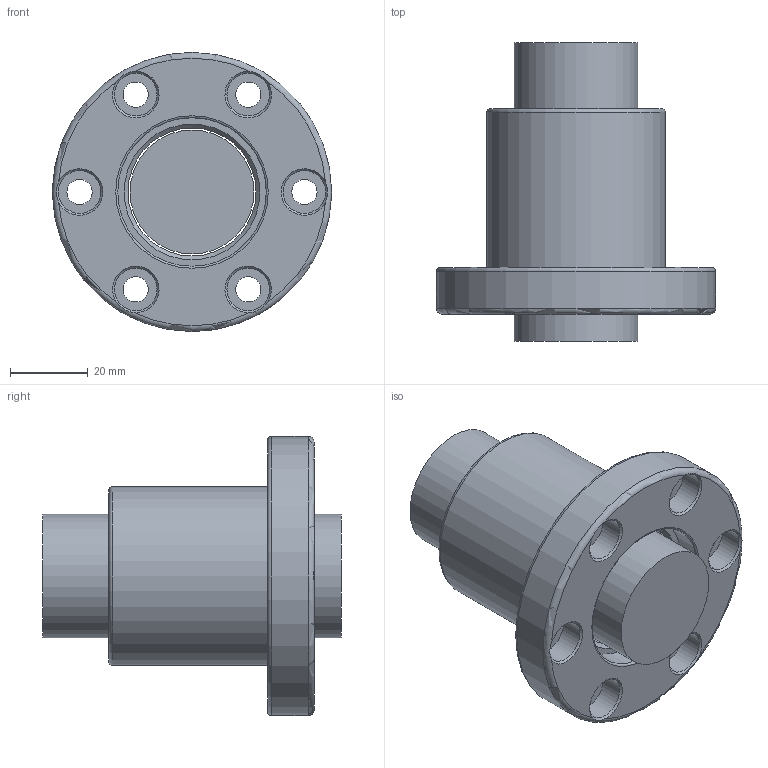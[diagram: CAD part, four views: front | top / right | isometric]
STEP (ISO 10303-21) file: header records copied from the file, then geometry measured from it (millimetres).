
FILE_DESCRIPTION(/* description */ (''),/* implementation_level */ '2;1');
FILE_NAME(/* name */ '3205T4N.prt.step',/* time_stamp */ '2008-12-05T09:34:34+08:00',/* author */ (''),/* organization */ (''),/* preprocessor_version */ 'ST-DEVELOPER v11',/* originating_system */ 'SIEMENS UGS NX 6.0',/* authorisation */ '');
FILE_SCHEMA (('AUTOMOTIVE_DESIGN { 1 0 10303 214 1 1 1 1 }'));
Length unit declared in the file: millimetre
Products named in the file (1): 3205T4N
Bounding box: 72 x 77 x 72 mm (x, y, z)
Volume: 124389.5 mm3; surface area: 31168.5 mm2
Topology: 2 solids, 2 shells, 50 faces, 122 edges, 79 vertices
Faces by surface type: cylinder 18, cone 14, plane 13, torus 5
Full cylindrical faces by diameter (mm): 6.5 x6, 11 x6, 31.95 x1, 33 x1, 38.3 x2, 46 x1, 72 x1
Entity records: 1210 total; most frequent: DIRECTION 222, CARTESIAN_POINT 207, ORIENTED_EDGE 132, AXIS2_PLACEMENT_3D 111, EDGE_LOOP 104, FACE_BOUND 102, EDGE_CURVE 66, VERTEX_POINT 60
